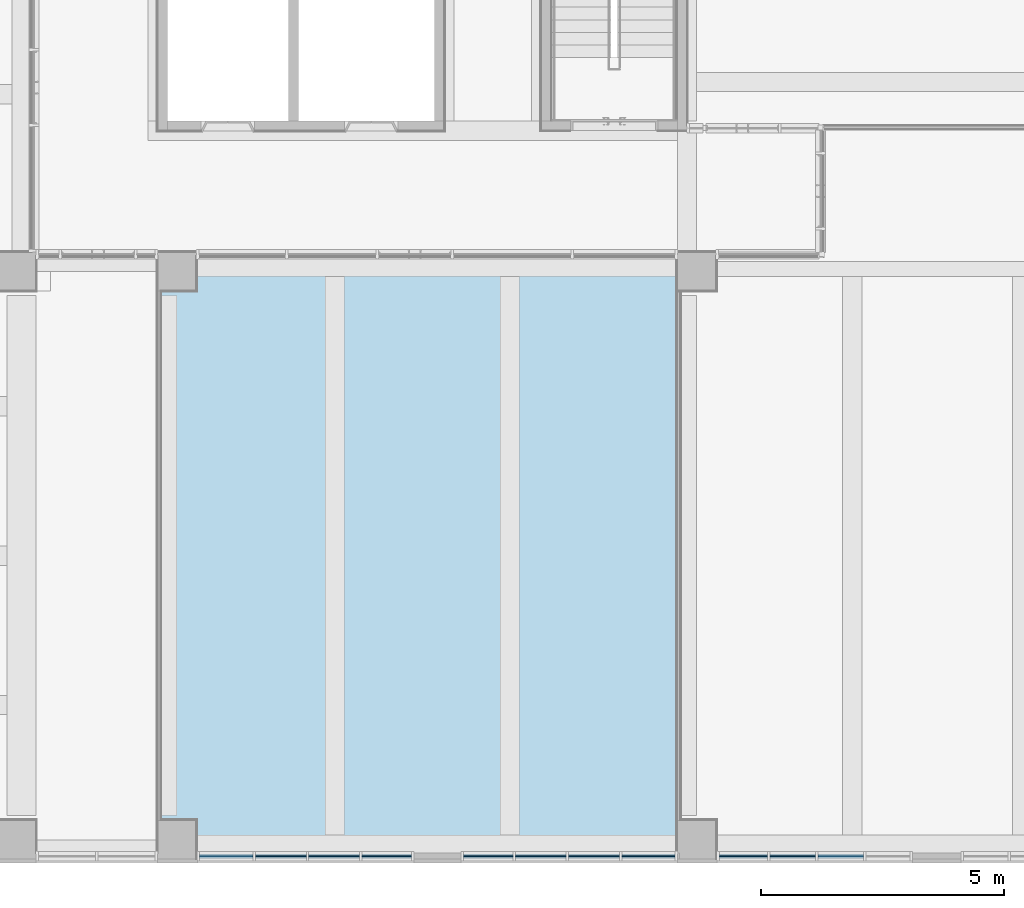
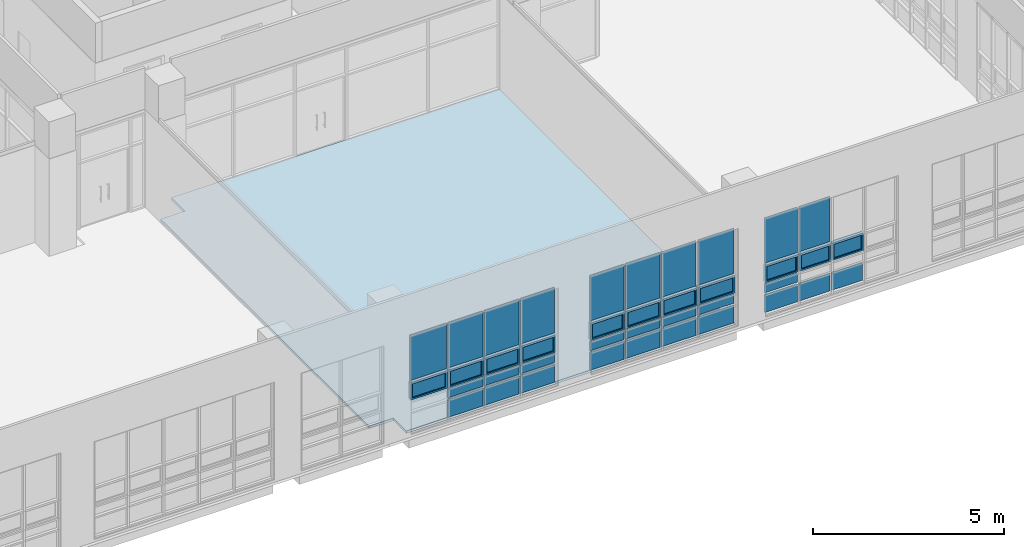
# One storey, part 32 of 74: 39 plates, 1 slab, 3 elements without a shape of their own.
"""IFC2X3 building model written with IfcOpenShell, lengths in millimetres."""

from ifc_helpers import new_model, entity, si_unit, converted_unit, derived_unit, direction, frame, origin, origin_2d_with_axis, place, context, subcontext, project, spatial, polyline, rectangle, outline, extrude, source, transform, mapped, material, material_list, layer, layer_set, layer_usage, type_object, type_shapes, element, aggregate, save


model = new_model("IFC2X3")

# Units and contexts
model_context = context("Model", 3, precision=0.01, world=origin(), true_north=direction((6.123031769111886e-17, 1.0)))
body_context = subcontext(model_context, "Body", "Model", "MODEL_VIEW")
ifc_project = project(units=[si_unit("LENGTHUNIT", "METRE", prefix="MILLI"), si_unit("AREAUNIT", "SQUARE_METRE"), si_unit("VOLUMEUNIT", "CUBIC_METRE"), converted_unit("PLANEANGLEUNIT", "DEGREE", entity("IfcRatioMeasure", 0.017453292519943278), si_unit("PLANEANGLEUNIT", "RADIAN"), dimensions=[0, 0, 0, 0, 0, 0, 0]), si_unit("MASSUNIT", "GRAM", prefix="KILO"), derived_unit("MASSDENSITYUNIT", [(si_unit("MASSUNIT", "GRAM", prefix="KILO"), 1), (si_unit("LENGTHUNIT", "METRE"), -3)]), derived_unit("MOMENTOFINERTIAUNIT", [(si_unit("LENGTHUNIT", "METRE"), 4)]), si_unit("TIMEUNIT", "SECOND"), si_unit("FREQUENCYUNIT", "HERTZ"), si_unit("THERMODYNAMICTEMPERATUREUNIT", "DEGREE_CELSIUS"), derived_unit("THERMALTRANSMITTANCEUNIT", [(si_unit("MASSUNIT", "GRAM", prefix="KILO"), 1), (si_unit("THERMODYNAMICTEMPERATUREUNIT", "KELVIN"), -1), (si_unit("TIMEUNIT", "SECOND"), -3)]), derived_unit("VOLUMETRICFLOWRATEUNIT", [(si_unit("LENGTHUNIT", "METRE"), 3), (si_unit("TIMEUNIT", "SECOND"), -1)]), derived_unit("MASSFLOWRATEUNIT", [(si_unit("MASSUNIT", "GRAM", prefix="KILO"), 1), (si_unit("TIMEUNIT", "SECOND"), -1)]), derived_unit("ROTATIONALFREQUENCYUNIT", [(si_unit("TIMEUNIT", "SECOND"), -1)]), si_unit("ELECTRICCURRENTUNIT", "AMPERE"), si_unit("ELECTRICVOLTAGEUNIT", "VOLT"), si_unit("POWERUNIT", "WATT"), si_unit("FORCEUNIT", "NEWTON", prefix="KILO"), si_unit("ILLUMINANCEUNIT", "LUX"), si_unit("LUMINOUSFLUXUNIT", "LUMEN"), si_unit("LUMINOUSINTENSITYUNIT", "CANDELA"), derived_unit("USERDEFINED", [(si_unit("MASSUNIT", "GRAM", prefix="KILO"), -1), (si_unit("LENGTHUNIT", "METRE"), -2), (si_unit("TIMEUNIT", "SECOND"), 3), (si_unit("LUMINOUSFLUXUNIT", "LUMEN"), 1)]), derived_unit("SOUNDPOWERUNIT", [(si_unit("MASSUNIT", "GRAM", prefix="KILO"), 1), (si_unit("LENGTHUNIT", "METRE"), 2), (si_unit("TIMEUNIT", "SECOND"), -3)]), derived_unit("SOUNDPRESSUREUNIT", [(si_unit("MASSUNIT", "GRAM", prefix="KILO"), 1), (si_unit("LENGTHUNIT", "METRE"), -1), (si_unit("TIMEUNIT", "SECOND"), -2)]), derived_unit("LINEARVELOCITYUNIT", [(si_unit("LENGTHUNIT", "METRE"), 1), (si_unit("TIMEUNIT", "SECOND"), -1)]), si_unit("PRESSUREUNIT", "PASCAL"), derived_unit("USERDEFINED", [(si_unit("LENGTHUNIT", "METRE"), -2), (si_unit("MASSUNIT", "GRAM", prefix="KILO"), 1), (si_unit("TIMEUNIT", "SECOND"), -2)]), derived_unit("LINEARFORCEUNIT", [(si_unit("MASSUNIT", "GRAM", prefix="KILO"), 1), (si_unit("LENGTHUNIT", "METRE"), 1), (si_unit("TIMEUNIT", "SECOND"), -2), (si_unit("LENGTHUNIT", "METRE"), -1)]), derived_unit("PLANARFORCEUNIT", [(si_unit("MASSUNIT", "GRAM", prefix="KILO"), 1), (si_unit("LENGTHUNIT", "METRE"), 1), (si_unit("TIMEUNIT", "SECOND"), -2), (si_unit("LENGTHUNIT", "METRE"), -2)])], contexts=[model_context])

# Site, building, storey
site_placement = place(None, frame((-14167.972527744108, -657.2125860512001, 0.0)))
site = spatial("IfcSite", under=ifc_project, at=site_placement, Name="Default", CompositionType="ELEMENT")
building_placement = place(site_placement, origin())
building = spatial("IfcBuilding", under=site, at=building_placement, Name="Sample Building", CompositionType="ELEMENT")
storey_placement = place(building_placement, frame((0.0, 0.0, 4800.0)))
storey = spatial("IfcBuildingStorey", under=building, at=storey_placement, Name="지상 2층", CompositionType="ELEMENT", Elevation=4800.000000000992)

# Curtain wall, plates
curtain_wall_type = type_object("IfcCurtainWallType", Name="커튼월:CW112-스테인리스 스틸 커튼월", PredefinedType="NOTDEFINED")
curtain_wall_1_placement = place(storey_placement, frame((0.0, 0.0, -4800.0)))
curtain_wall_1 = element("IfcCurtainWall", 1, at=curtain_wall_1_placement, inside=storey, type_object=curtain_wall_type, Name="커튼월:CW112-스테인리스 스틸 커튼월", ObjectType="커튼월:CW112-스테인리스 스틸 커튼월")
ifc_material_1 = material(Name="KBIMS-로이유리(코팅)")
plate_type_1 = type_object("IfcPlateType", Name="CW300-THK24.Low-e coating glass:CW300-THK24.Low-e coating glass", PredefinedType="CURTAIN_PANEL", material=ifc_material_1)
shared_shape_1 = source(origin(), body_context, "Body", "SweptSolid", [
    extrude(rectangle(XDim=1043.750000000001, YDim=24.000000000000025, at=origin_2d_with_axis()), frame((0.0, 0.0, 0.0), z_axis=(0.0, 0.0, 1.0), x_axis=(-1.0, 0.0, 0.0)), (0.0, 0.0, 1.0), 575.0000000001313),
])
type_shapes(plate_type_1, [shared_shape_1])
plate_1_placement = place(curtain_wall_1_placement, frame((32608.863623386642, 619.712295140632, 4930.0)))
plate_1 = element("IfcPlate", 2, at=plate_1_placement, type_object=plate_type_1, material=ifc_material_1, Name="CW300-THK24.Low-e coating glass:CW300-THK24.Low-e coating glass", ObjectType="CW300-THK24.Low-e coating glass:CW300-THK24.Low-e coating glass", context=body_context, shape_type="MappedRepresentation", body=[
    mapped(shared_shape_1, transform((0.0, 0.0, 0.0), scale=1.0)),
])
plate_2_placement = place(curtain_wall_1_placement, frame((33702.61362338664, 619.7122951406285, 4930.0)))
plate_2 = element("IfcPlate", 3, at=plate_2_placement, type_object=plate_type_1, material=ifc_material_1, Name="CW300-THK24.Low-e coating glass:CW300-THK24.Low-e coating glass", ObjectType="CW300-THK24.Low-e coating glass:CW300-THK24.Low-e coating glass", context=body_context, shape_type="MappedRepresentation", body=[
    mapped(shared_shape_1, transform((0.0, 0.0, 0.0), scale=1.0)),
])

curtain_wall_2_placement = place(storey_placement, frame((0.0, 0.0, -4800.0)))
curtain_wall_2 = element("IfcCurtainWall", 4, at=curtain_wall_2_placement, inside=storey, type_object=curtain_wall_type, Name="커튼월:CW112-스테인리스 스틸 커튼월", ObjectType="커튼월:CW112-스테인리스 스틸 커튼월")
plate_3_placement = place(curtain_wall_2_placement, frame((37958.77251886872, 619.7122951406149, 4930.0)))
plate_3 = element("IfcPlate", 5, at=plate_3_placement, type_object=plate_type_1, material=ifc_material_1, Name="CW300-THK24.Low-e coating glass:CW300-THK24.Low-e coating glass", ObjectType="CW300-THK24.Low-e coating glass:CW300-THK24.Low-e coating glass", context=body_context, shape_type="MappedRepresentation", body=[
    mapped(shared_shape_1, transform((0.0, 0.0, 0.0), scale=1.0)),
])
plate_4_placement = place(curtain_wall_2_placement, frame((39052.52251886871, 619.7122951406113, 4930.0)))
plate_4 = element("IfcPlate", 6, at=plate_4_placement, type_object=plate_type_1, material=ifc_material_1, Name="CW300-THK24.Low-e coating glass:CW300-THK24.Low-e coating glass", ObjectType="CW300-THK24.Low-e coating glass:CW300-THK24.Low-e coating glass", context=body_context, shape_type="MappedRepresentation", body=[
    mapped(shared_shape_1, transform((0.0, 0.0, 0.0), scale=1.0)),
])

# Plate
plate_type_2 = type_object("IfcPlateType", Name="CW300-THK24.Low-e coating glass:CW300-THK24.Low-e coating glass", PredefinedType="CURTAIN_PANEL", material=ifc_material_1)
shared_shape_2 = source(origin(), body_context, "Body", "SweptSolid", [
    extrude(rectangle(XDim=1018.749999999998, YDim=24.000000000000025, at=origin_2d_with_axis()), frame((0.0, 0.0, 0.0), z_axis=(0.0, 0.0, 1.0), x_axis=(-1.0, 0.0, 0.0)), (0.0, 0.0, 1.0), 575.0000000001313),
])
type_shapes(plate_type_2, [shared_shape_2])
plate_5_placement = place(curtain_wall_1_placement, frame((34783.86362338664, 619.712295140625, 4930.0)))
plate_5 = element("IfcPlate", 7, at=plate_5_placement, type_object=plate_type_2, material=ifc_material_1, Name="CW300-THK24.Low-e coating glass:CW300-THK24.Low-e coating glass", ObjectType="CW300-THK24.Low-e coating glass:CW300-THK24.Low-e coating glass", context=body_context, shape_type="MappedRepresentation", body=[
    mapped(shared_shape_2, transform((0.0, 0.0, 0.0), scale=1.0)),
])

plate_6_placement = place(curtain_wall_2_placement, frame((36877.522518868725, 619.7122951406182, 4930.0)))
plate_6 = element("IfcPlate", 8, at=plate_6_placement, type_object=plate_type_2, material=ifc_material_1, Name="CW300-THK24.Low-e coating glass:CW300-THK24.Low-e coating glass", ObjectType="CW300-THK24.Low-e coating glass:CW300-THK24.Low-e coating glass", context=body_context, shape_type="MappedRepresentation", body=[
    mapped(shared_shape_2, transform((0.0, 0.0, 0.0), scale=1.0)),
])

plate_type_3 = type_object("IfcPlateType", Name="CW300-THK24.Low-e coating glass:CW300-THK24.Low-e coating glass", PredefinedType="CURTAIN_PANEL", material=ifc_material_1)
shared_shape_3 = source(origin(), body_context, "Body", "SweptSolid", [
    extrude(rectangle(XDim=1043.750000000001, YDim=24.000000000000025, at=origin_2d_with_axis()), frame((0.0, 0.0, 0.0), z_axis=(0.0, 0.0, 1.0), x_axis=(-1.0, 0.0, 0.0)), (0.0, 0.0, 1.0), 299.9999999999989),
])
type_shapes(plate_type_3, [shared_shape_3])
plate_7_placement = place(curtain_wall_1_placement, frame((32608.863623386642, 619.712295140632, 5555.0)))
plate_7 = element("IfcPlate", 9, at=plate_7_placement, type_object=plate_type_3, material=ifc_material_1, Name="CW300-THK24.Low-e coating glass:CW300-THK24.Low-e coating glass", ObjectType="CW300-THK24.Low-e coating glass:CW300-THK24.Low-e coating glass", context=body_context, shape_type="MappedRepresentation", body=[
    mapped(shared_shape_3, transform((0.0, 0.0, 0.0), scale=1.0)),
])

plate_8_placement = place(curtain_wall_1_placement, frame((33702.61362338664, 619.7122951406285, 5555.0)))
plate_8 = element("IfcPlate", 10, at=plate_8_placement, type_object=plate_type_3, material=ifc_material_1, Name="CW300-THK24.Low-e coating glass:CW300-THK24.Low-e coating glass", ObjectType="CW300-THK24.Low-e coating glass:CW300-THK24.Low-e coating glass", context=body_context, shape_type="MappedRepresentation", body=[
    mapped(shared_shape_3, transform((0.0, 0.0, 0.0), scale=1.0)),
])

plate_9_placement = place(curtain_wall_2_placement, frame((37958.77251886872, 619.7122951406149, 5555.0)))
plate_9 = element("IfcPlate", 11, at=plate_9_placement, type_object=plate_type_3, material=ifc_material_1, Name="CW300-THK24.Low-e coating glass:CW300-THK24.Low-e coating glass", ObjectType="CW300-THK24.Low-e coating glass:CW300-THK24.Low-e coating glass", context=body_context, shape_type="MappedRepresentation", body=[
    mapped(shared_shape_3, transform((0.0, 0.0, 0.0), scale=1.0)),
])

plate_10_placement = place(curtain_wall_2_placement, frame((39052.52251886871, 619.7122951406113, 5555.0)))
plate_10 = element("IfcPlate", 12, at=plate_10_placement, type_object=plate_type_3, material=ifc_material_1, Name="CW300-THK24.Low-e coating glass:CW300-THK24.Low-e coating glass", ObjectType="CW300-THK24.Low-e coating glass:CW300-THK24.Low-e coating glass", context=body_context, shape_type="MappedRepresentation", body=[
    mapped(shared_shape_3, transform((0.0, 0.0, 0.0), scale=1.0)),
])

plate_type_4 = type_object("IfcPlateType", Name="CW300-THK24.Low-e coating glass:CW300-THK24.Low-e coating glass", PredefinedType="CURTAIN_PANEL", material=ifc_material_1)
shared_shape_4 = source(origin(), body_context, "Body", "SweptSolid", [
    extrude(rectangle(XDim=1018.749999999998, YDim=24.000000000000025, at=origin_2d_with_axis()), frame((0.0, 0.0, 0.0), z_axis=(0.0, 0.0, 1.0), x_axis=(-1.0, 0.0, 0.0)), (0.0, 0.0, 1.0), 299.9999999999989),
])
type_shapes(plate_type_4, [shared_shape_4])
plate_11_placement = place(curtain_wall_1_placement, frame((34783.86362338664, 619.712295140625, 5555.0)))
plate_11 = element("IfcPlate", 13, at=plate_11_placement, type_object=plate_type_4, material=ifc_material_1, Name="CW300-THK24.Low-e coating glass:CW300-THK24.Low-e coating glass", ObjectType="CW300-THK24.Low-e coating glass:CW300-THK24.Low-e coating glass", context=body_context, shape_type="MappedRepresentation", body=[
    mapped(shared_shape_4, transform((0.0, 0.0, 0.0), scale=1.0)),
])

plate_12_placement = place(curtain_wall_2_placement, frame((36877.522518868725, 619.7122951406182, 5555.0)))
plate_12 = element("IfcPlate", 14, at=plate_12_placement, type_object=plate_type_4, material=ifc_material_1, Name="CW300-THK24.Low-e coating glass:CW300-THK24.Low-e coating glass", ObjectType="CW300-THK24.Low-e coating glass:CW300-THK24.Low-e coating glass", context=body_context, shape_type="MappedRepresentation", body=[
    mapped(shared_shape_4, transform((0.0, 0.0, 0.0), scale=1.0)),
])

ifc_material_2 = material(Name="KBIMS-유리")
ifc_material_3 = material(Name="KBIMS-알루미늄")
ifc_material_list_1 = material_list([ifc_material_2, ifc_material_3])
ifc_material_list_2 = material_list([ifc_material_2, ifc_material_3])
plate_type_5 = type_object("IfcPlateType", Name="CW410-프로젝트 창:CW410-프로젝트 창 (하부개폐)", PredefinedType="CURTAIN_PANEL", material=ifc_material_list_2)
shared_shape_5 = source(origin(), body_context, "Body", "SweptSolid", [
    extrude(rectangle(XDim=1001.0161596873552, YDim=23.999999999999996, at=origin_2d_with_axis()), frame((0.0, -0.04999999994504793, 50.0), z_axis=(0.0, 0.0, 1.0), x_axis=(-1.0, 0.0, 0.0)), (0.0, 0.0, 1.0), 450.00000000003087),
    extrude(outline(polyline([(-550.508079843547, -275.0), (550.508079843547, -275.0), (550.508079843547, 275.0), (-550.508079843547, 275.0), (-550.508079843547, -275.0)]), holes=[polyline([(-500.5080798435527, -225.0), (-500.5080798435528, 225.0), (500.5080798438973, 225.0), (500.5080798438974, -225.0), (-500.5080798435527, -225.0)])]), frame((0.0, -50.04999999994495, 275.0), z_axis=(0.0, 1.0, 0.0), x_axis=(1.0, 0.0, 0.0)), (0.0, 0.0, 1.0), 99.99999999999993),
])
type_shapes(plate_type_5, [shared_shape_5])
plate_13_placement = place(curtain_wall_1_placement, frame((31486.480543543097, 619.7122951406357, 5905.0)))
plate_13 = element("IfcPlate", 15, at=plate_13_placement, type_object=plate_type_5, material=ifc_material_list_1, Name="CW410-프로젝트 창:CW410-프로젝트 창 (하부개폐)", ObjectType="CW410-프로젝트 창:CW410-프로젝트 창 (하부개폐)", context=body_context, shape_type="MappedRepresentation", body=[
    mapped(shared_shape_5, transform((0.0, 0.0, 0.0), scale=1.0)),
])

ifc_material_list_3 = material_list([ifc_material_2, ifc_material_3])
ifc_material_list_4 = material_list([ifc_material_2, ifc_material_3])
plate_type_6 = type_object("IfcPlateType", Name="CW410-프로젝트 창:CW410-프로젝트 창 (하부개폐)", PredefinedType="CURTAIN_PANEL", material=ifc_material_list_4)
shared_shape_6 = source(origin(), body_context, "Body", "SweptSolid", [
    extrude(rectangle(XDim=943.7500000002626, YDim=23.999999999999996, at=origin_2d_with_axis()), frame((0.0, -0.04999999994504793, 50.0), z_axis=(0.0, 0.0, 1.0), x_axis=(-1.0, 0.0, 0.0)), (0.0, 0.0, 1.0), 450.00000000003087),
    extrude(outline(polyline([(-521.8750000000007, -275.0), (521.8750000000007, -275.0), (521.8750000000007, 275.0), (-521.8750000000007, 275.0), (-521.8750000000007, -275.0)]), holes=[polyline([(-471.8750000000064, -225.0), (-471.8750000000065, 225.0), (471.875000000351, 225.0), (471.8750000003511, -225.0), (-471.8750000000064, -225.0)])]), frame((0.0, -50.04999999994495, 275.0), z_axis=(0.0, 1.0, 0.0), x_axis=(1.0, 0.0, 0.0)), (0.0, 0.0, 1.0), 99.99999999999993),
])
type_shapes(plate_type_6, [shared_shape_6])
plate_14_placement = place(curtain_wall_1_placement, frame((32608.863623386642, 619.712295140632, 5905.0)))
plate_14 = element("IfcPlate", 16, at=plate_14_placement, type_object=plate_type_6, material=ifc_material_list_3, Name="CW410-프로젝트 창:CW410-프로젝트 창 (하부개폐)", ObjectType="CW410-프로젝트 창:CW410-프로젝트 창 (하부개폐)", context=body_context, shape_type="MappedRepresentation", body=[
    mapped(shared_shape_6, transform((0.0, 0.0, 0.0), scale=1.0)),
])

ifc_material_list_5 = material_list([ifc_material_2, ifc_material_3])
plate_15_placement = place(curtain_wall_1_placement, frame((33702.61362338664, 619.7122951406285, 5905.0)))
plate_15 = element("IfcPlate", 17, at=plate_15_placement, type_object=plate_type_6, material=ifc_material_list_5, Name="CW410-프로젝트 창:CW410-프로젝트 창 (하부개폐)", ObjectType="CW410-프로젝트 창:CW410-프로젝트 창 (하부개폐)", context=body_context, shape_type="MappedRepresentation", body=[
    mapped(shared_shape_6, transform((0.0, 0.0, 0.0), scale=1.0)),
])

ifc_material_list_6 = material_list([ifc_material_2, ifc_material_3])
plate_16_placement = place(curtain_wall_2_placement, frame((37958.77251886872, 619.7122951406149, 5905.0)))
plate_16 = element("IfcPlate", 18, at=plate_16_placement, type_object=plate_type_6, material=ifc_material_list_6, Name="CW410-프로젝트 창:CW410-프로젝트 창 (하부개폐)", ObjectType="CW410-프로젝트 창:CW410-프로젝트 창 (하부개폐)", context=body_context, shape_type="MappedRepresentation", body=[
    mapped(shared_shape_6, transform((0.0, 0.0, 0.0), scale=1.0)),
])

ifc_material_list_7 = material_list([ifc_material_2, ifc_material_3])
plate_17_placement = place(curtain_wall_2_placement, frame((39052.52251886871, 619.7122951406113, 5905.0)))
plate_17 = element("IfcPlate", 19, at=plate_17_placement, type_object=plate_type_6, material=ifc_material_list_7, Name="CW410-프로젝트 창:CW410-프로젝트 창 (하부개폐)", ObjectType="CW410-프로젝트 창:CW410-프로젝트 창 (하부개폐)", context=body_context, shape_type="MappedRepresentation", body=[
    mapped(shared_shape_6, transform((0.0, 0.0, 0.0), scale=1.0)),
])

ifc_material_list_8 = material_list([ifc_material_2, ifc_material_3])
ifc_material_list_9 = material_list([ifc_material_2, ifc_material_3])
plate_type_7 = type_object("IfcPlateType", Name="CW410-프로젝트 창:CW410-프로젝트 창 (하부개폐)", PredefinedType="CURTAIN_PANEL", material=ifc_material_list_9)
shared_shape_7 = source(origin(), body_context, "Body", "SweptSolid", [
    extrude(rectangle(XDim=918.7500000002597, YDim=23.999999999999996, at=origin_2d_with_axis()), frame((0.0, -0.04999999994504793, 50.0), z_axis=(0.0, 0.0, 1.0), x_axis=(-1.0, 0.0, 0.0)), (0.0, 0.0, 1.0), 450.00000000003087),
    extrude(outline(polyline([(-509.3749999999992, -275.0), (509.3749999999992, -275.0), (509.3749999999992, 275.0), (-509.3749999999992, 275.0), (-509.3749999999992, -275.0)]), holes=[polyline([(-459.37500000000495, -225.0), (-459.375000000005, 225.0), (459.3750000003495, 225.0), (459.37500000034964, -225.0), (-459.37500000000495, -225.0)])]), frame((0.0, -50.04999999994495, 275.0), z_axis=(0.0, 1.0, 0.0), x_axis=(1.0, 0.0, 0.0)), (0.0, 0.0, 1.0), 99.99999999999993),
])
type_shapes(plate_type_7, [shared_shape_7])
plate_18_placement = place(curtain_wall_1_placement, frame((34783.86362338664, 619.712295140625, 5905.0)))
plate_18 = element("IfcPlate", 20, at=plate_18_placement, type_object=plate_type_7, material=ifc_material_list_8, Name="CW410-프로젝트 창:CW410-프로젝트 창 (하부개폐)", ObjectType="CW410-프로젝트 창:CW410-프로젝트 창 (하부개폐)", context=body_context, shape_type="MappedRepresentation", body=[
    mapped(shared_shape_7, transform((0.0, 0.0, 0.0), scale=1.0)),
])

ifc_material_list_10 = material_list([ifc_material_2, ifc_material_3])
plate_19_placement = place(curtain_wall_2_placement, frame((36877.522518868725, 619.7122951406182, 5905.0)))
plate_19 = element("IfcPlate", 21, at=plate_19_placement, type_object=plate_type_7, material=ifc_material_list_10, Name="CW410-프로젝트 창:CW410-프로젝트 창 (하부개폐)", ObjectType="CW410-프로젝트 창:CW410-프로젝트 창 (하부개폐)", context=body_context, shape_type="MappedRepresentation", body=[
    mapped(shared_shape_7, transform((0.0, 0.0, 0.0), scale=1.0)),
])

plate_type_8 = type_object("IfcPlateType", Name="CW300-THK24.Low-e coating glass:CW300-THK24.Low-e coating glass", PredefinedType="CURTAIN_PANEL", material=ifc_material_1)
shared_shape_8 = source(origin(), body_context, "Body", "SweptSolid", [
    extrude(rectangle(XDim=1101.0161596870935, YDim=24.000000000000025, at=origin_2d_with_axis()), frame((0.0, 0.0, 0.0), z_axis=(0.0, 0.0, 1.0), x_axis=(-1.0, 0.0, 0.0)), (0.0, 0.0, 1.0), 1445.0000000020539),
])
type_shapes(plate_type_8, [shared_shape_8])
plate_20_placement = place(curtain_wall_1_placement, frame((31486.480543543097, 619.7122951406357, 6505.0)))
plate_20 = element("IfcPlate", 22, at=plate_20_placement, type_object=plate_type_8, material=ifc_material_1, Name="CW300-THK24.Low-e coating glass:CW300-THK24.Low-e coating glass", ObjectType="CW300-THK24.Low-e coating glass:CW300-THK24.Low-e coating glass", context=body_context, shape_type="MappedRepresentation", body=[
    mapped(shared_shape_8, transform((0.0, 0.0, 0.0), scale=1.0)),
])

plate_type_9 = type_object("IfcPlateType", Name="CW300-THK24.Low-e coating glass:CW300-THK24.Low-e coating glass", PredefinedType="CURTAIN_PANEL", material=ifc_material_1)
shared_shape_9 = source(origin(), body_context, "Body", "SweptSolid", [
    extrude(rectangle(XDim=1043.7500000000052, YDim=24.000000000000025, at=origin_2d_with_axis()), frame((0.0, 0.0, 0.0), z_axis=(0.0, 0.0, 1.0), x_axis=(-1.0, 0.0, 0.0)), (0.0, 0.0, 1.0), 1445.0000000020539),
])
type_shapes(plate_type_9, [shared_shape_9])
plate_21_placement = place(curtain_wall_1_placement, frame((32608.863623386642, 619.712295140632, 6505.0)))
plate_21 = element("IfcPlate", 23, at=plate_21_placement, type_object=plate_type_9, material=ifc_material_1, Name="CW300-THK24.Low-e coating glass:CW300-THK24.Low-e coating glass", ObjectType="CW300-THK24.Low-e coating glass:CW300-THK24.Low-e coating glass", context=body_context, shape_type="MappedRepresentation", body=[
    mapped(shared_shape_9, transform((0.0, 0.0, 0.0), scale=1.0)),
])

plate_22_placement = place(curtain_wall_1_placement, frame((33702.61362338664, 619.7122951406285, 6505.0)))
plate_22 = element("IfcPlate", 24, at=plate_22_placement, type_object=plate_type_9, material=ifc_material_1, Name="CW300-THK24.Low-e coating glass:CW300-THK24.Low-e coating glass", ObjectType="CW300-THK24.Low-e coating glass:CW300-THK24.Low-e coating glass", context=body_context, shape_type="MappedRepresentation", body=[
    mapped(shared_shape_9, transform((0.0, 0.0, 0.0), scale=1.0)),
])

plate_23_placement = place(curtain_wall_2_placement, frame((37958.77251886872, 619.7122951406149, 6505.0)))
plate_23 = element("IfcPlate", 25, at=plate_23_placement, type_object=plate_type_9, material=ifc_material_1, Name="CW300-THK24.Low-e coating glass:CW300-THK24.Low-e coating glass", ObjectType="CW300-THK24.Low-e coating glass:CW300-THK24.Low-e coating glass", context=body_context, shape_type="MappedRepresentation", body=[
    mapped(shared_shape_9, transform((0.0, 0.0, 0.0), scale=1.0)),
])

plate_24_placement = place(curtain_wall_2_placement, frame((39052.52251886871, 619.7122951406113, 6505.0)))
plate_24 = element("IfcPlate", 26, at=plate_24_placement, type_object=plate_type_9, material=ifc_material_1, Name="CW300-THK24.Low-e coating glass:CW300-THK24.Low-e coating glass", ObjectType="CW300-THK24.Low-e coating glass:CW300-THK24.Low-e coating glass", context=body_context, shape_type="MappedRepresentation", body=[
    mapped(shared_shape_9, transform((0.0, 0.0, 0.0), scale=1.0)),
])

plate_type_10 = type_object("IfcPlateType", Name="CW300-THK24.Low-e coating glass:CW300-THK24.Low-e coating glass", PredefinedType="CURTAIN_PANEL", material=ifc_material_1)
shared_shape_10 = source(origin(), body_context, "Body", "SweptSolid", [
    extrude(rectangle(XDim=1018.749999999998, YDim=24.000000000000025, at=origin_2d_with_axis()), frame((0.0, 0.0, 0.0), z_axis=(0.0, 0.0, 1.0), x_axis=(-1.0, 0.0, 0.0)), (0.0, 0.0, 1.0), 1445.0000000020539),
])
type_shapes(plate_type_10, [shared_shape_10])
plate_25_placement = place(curtain_wall_1_placement, frame((34783.86362338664, 619.712295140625, 6505.0)))
plate_25 = element("IfcPlate", 27, at=plate_25_placement, type_object=plate_type_10, material=ifc_material_1, Name="CW300-THK24.Low-e coating glass:CW300-THK24.Low-e coating glass", ObjectType="CW300-THK24.Low-e coating glass:CW300-THK24.Low-e coating glass", context=body_context, shape_type="MappedRepresentation", body=[
    mapped(shared_shape_10, transform((0.0, 0.0, 0.0), scale=1.0)),
])

aggregate(curtain_wall_1, [plate_1, plate_2, plate_5, plate_7, plate_8, plate_11, plate_13, plate_14, plate_15, plate_18, plate_20, plate_21, plate_22, plate_25])

plate_26_placement = place(curtain_wall_2_placement, frame((36877.522518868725, 619.7122951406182, 6505.0)))
plate_26 = element("IfcPlate", 28, at=plate_26_placement, type_object=plate_type_10, material=ifc_material_1, Name="CW300-THK24.Low-e coating glass:CW300-THK24.Low-e coating glass", ObjectType="CW300-THK24.Low-e coating glass:CW300-THK24.Low-e coating glass", context=body_context, shape_type="MappedRepresentation", body=[
    mapped(shared_shape_10, transform((0.0, 0.0, 0.0), scale=1.0)),
])

plate_type_11 = type_object("IfcPlateType", Name="CW300-THK24.Low-e coating glass:CW300-THK24.Low-e coating glass", PredefinedType="CURTAIN_PANEL", material=ifc_material_1)
shared_shape_11 = source(origin(), body_context, "Body", "SweptSolid", [
    extrude(rectangle(XDim=1093.5749722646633, YDim=24.000000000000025, at=origin_2d_with_axis()), frame((0.0, 0.0, 0.0), z_axis=(0.0, 0.0, 1.0), x_axis=(-1.0, 0.0, 0.0)), (0.0, 0.0, 1.0), 575.0000000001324),
])
type_shapes(plate_type_11, [shared_shape_11])
plate_27_placement = place(curtain_wall_2_placement, frame((40171.18500500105, 619.7122951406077, 4930.0)))
plate_27 = element("IfcPlate", 29, at=plate_27_placement, type_object=plate_type_11, material=ifc_material_1, Name="CW300-THK24.Low-e coating glass:CW300-THK24.Low-e coating glass", ObjectType="CW300-THK24.Low-e coating glass:CW300-THK24.Low-e coating glass", context=body_context, shape_type="MappedRepresentation", body=[
    mapped(shared_shape_11, transform((0.0, 0.0, 0.0), scale=1.0)),
])

plate_type_12 = type_object("IfcPlateType", Name="CW300-THK24.Low-e coating glass:CW300-THK24.Low-e coating glass", PredefinedType="CURTAIN_PANEL", material=ifc_material_1)
shared_shape_12 = source(origin(), body_context, "Body", "SweptSolid", [
    extrude(rectangle(XDim=1093.5749722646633, YDim=24.000000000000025, at=origin_2d_with_axis()), frame((0.0, 0.0, 0.0), z_axis=(0.0, 0.0, 1.0), x_axis=(-1.0, 0.0, 0.0)), (0.0, 0.0, 1.0), 299.9999999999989),
])
type_shapes(plate_type_12, [shared_shape_12])
plate_28_placement = place(curtain_wall_2_placement, frame((40171.18500500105, 619.7122951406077, 5555.0)))
plate_28 = element("IfcPlate", 30, at=plate_28_placement, type_object=plate_type_12, material=ifc_material_1, Name="CW300-THK24.Low-e coating glass:CW300-THK24.Low-e coating glass", ObjectType="CW300-THK24.Low-e coating glass:CW300-THK24.Low-e coating glass", context=body_context, shape_type="MappedRepresentation", body=[
    mapped(shared_shape_12, transform((0.0, 0.0, 0.0), scale=1.0)),
])

ifc_material_list_11 = material_list([ifc_material_2, ifc_material_3])
ifc_material_list_12 = material_list([ifc_material_2, ifc_material_3])
plate_type_13 = type_object("IfcPlateType", Name="CW410-프로젝트 창:CW410-프로젝트 창 (하부개폐)", PredefinedType="CURTAIN_PANEL", material=ifc_material_list_12)
shared_shape_13 = source(origin(), body_context, "Body", "SweptSolid", [
    extrude(rectangle(XDim=993.5749722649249, YDim=23.999999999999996, at=origin_2d_with_axis()), frame((0.0, -0.04999999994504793, 50.0), z_axis=(0.0, 0.0, 1.0), x_axis=(-1.0, 0.0, 0.0)), (0.0, 0.0, 1.0), 450.0000000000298),
    extrude(outline(polyline([(-546.7874861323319, -275.0), (546.7874861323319, -275.0), (546.7874861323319, 275.0), (-546.7874861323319, 275.0), (-546.7874861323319, -275.0)]), holes=[polyline([(-496.78748613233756, -225.0), (-496.7874861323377, 225.0), (496.78748613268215, 225.0), (496.78748613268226, -225.0), (-496.78748613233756, -225.0)])]), frame((0.0, -50.04999999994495, 275.0), z_axis=(0.0, 1.0, 0.0), x_axis=(1.0, 0.0, 0.0)), (0.0, 0.0, 1.0), 99.99999999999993),
])
type_shapes(plate_type_13, [shared_shape_13])
plate_29_placement = place(curtain_wall_2_placement, frame((40171.18500500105, 619.7122951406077, 5905.0)))
plate_29 = element("IfcPlate", 31, at=plate_29_placement, type_object=plate_type_13, material=ifc_material_list_11, Name="CW410-프로젝트 창:CW410-프로젝트 창 (하부개폐)", ObjectType="CW410-프로젝트 창:CW410-프로젝트 창 (하부개폐)", context=body_context, shape_type="MappedRepresentation", body=[
    mapped(shared_shape_13, transform((0.0, 0.0, 0.0), scale=1.0)),
])

plate_type_14 = type_object("IfcPlateType", Name="CW300-THK24.Low-e coating glass:CW300-THK24.Low-e coating glass", PredefinedType="CURTAIN_PANEL", material=ifc_material_1)
shared_shape_14 = source(origin(), body_context, "Body", "SweptSolid", [
    extrude(rectangle(XDim=1093.5749722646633, YDim=24.000000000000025, at=origin_2d_with_axis()), frame((0.0, 0.0, 0.0), z_axis=(0.0, 0.0, 1.0), x_axis=(-1.0, 0.0, 0.0)), (0.0, 0.0, 1.0), 1445.0000000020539),
])
type_shapes(plate_type_14, [shared_shape_14])
plate_30_placement = place(curtain_wall_2_placement, frame((40171.18500500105, 619.7122951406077, 6505.0)))
plate_30 = element("IfcPlate", 32, at=plate_30_placement, type_object=plate_type_14, material=ifc_material_1, Name="CW300-THK24.Low-e coating glass:CW300-THK24.Low-e coating glass", ObjectType="CW300-THK24.Low-e coating glass:CW300-THK24.Low-e coating glass", context=body_context, shape_type="MappedRepresentation", body=[
    mapped(shared_shape_14, transform((0.0, 0.0, 0.0), scale=1.0)),
])

aggregate(curtain_wall_2, [plate_6, plate_3, plate_4, plate_27, plate_12, plate_9, plate_10, plate_28, plate_19, plate_16, plate_17, plate_29, plate_26, plate_23, plate_24, plate_30])

# Curtain wall, plates
curtain_wall_3_placement = place(storey_placement, frame((0.0, 0.0, -4800.0)))
curtain_wall_3 = element("IfcCurtainWall", 33, at=curtain_wall_3_placement, inside=storey, type_object=curtain_wall_type, Name="커튼월:CW112-스테인리스 스틸 커튼월", ObjectType="커튼월:CW112-스테인리스 스틸 커튼월")
plate_type_15 = type_object("IfcPlateType", Name="CW300-THK24.Low-e coating glass:CW300-THK24.Low-e coating glass", PredefinedType="CURTAIN_PANEL", material=ifc_material_1)
shared_shape_15 = source(origin(), body_context, "Body", "SweptSolid", [
    extrude(rectangle(XDim=988.5987811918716, YDim=24.000000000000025, at=origin_2d_with_axis()), frame((0.0, 0.0, 0.0), z_axis=(0.0, 0.0, 1.0), x_axis=(-1.0, 0.0, 0.0)), (0.0, 0.0, 1.0), 575.0000000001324),
])
type_shapes(plate_type_15, [shared_shape_15])
plate_31_placement = place(curtain_wall_3_placement, frame((42130.27188172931, 619.7122951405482, 4930.0)))
plate_31 = element("IfcPlate", 34, at=plate_31_placement, type_object=plate_type_15, material=ifc_material_1, Name="CW300-THK24.Low-e coating glass:CW300-THK24.Low-e coating glass", ObjectType="CW300-THK24.Low-e coating glass:CW300-THK24.Low-e coating glass", context=body_context, shape_type="MappedRepresentation", body=[
    mapped(shared_shape_15, transform((0.0, 0.0, 0.0), scale=1.0)),
])
plate_type_16 = type_object("IfcPlateType", Name="CW300-THK24.Low-e coating glass:CW300-THK24.Low-e coating glass", PredefinedType="CURTAIN_PANEL", material=ifc_material_1)
shared_shape_16 = source(origin(), body_context, "Body", "SweptSolid", [
    extrude(rectangle(XDim=937.4999999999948, YDim=24.000000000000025, at=origin_2d_with_axis()), frame((0.0, 0.0, 0.0), z_axis=(0.0, 0.0, 1.0), x_axis=(-1.0, 0.0, 0.0)), (0.0, 0.0, 1.0), 575.0000000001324),
])
type_shapes(plate_type_16, [shared_shape_16])
plate_32_placement = place(curtain_wall_3_placement, frame((43143.32127232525, 619.7122951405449, 4930.0)))
plate_32 = element("IfcPlate", 35, at=plate_32_placement, type_object=plate_type_16, material=ifc_material_1, Name="CW300-THK24.Low-e coating glass:CW300-THK24.Low-e coating glass", ObjectType="CW300-THK24.Low-e coating glass:CW300-THK24.Low-e coating glass", context=body_context, shape_type="MappedRepresentation", body=[
    mapped(shared_shape_16, transform((0.0, 0.0, 0.0), scale=1.0)),
])
plate_33_placement = place(curtain_wall_3_placement, frame((44130.82127232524, 619.7122951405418, 4930.0)))
plate_33 = element("IfcPlate", 36, at=plate_33_placement, type_object=plate_type_16, material=ifc_material_1, Name="CW300-THK24.Low-e coating glass:CW300-THK24.Low-e coating glass", ObjectType="CW300-THK24.Low-e coating glass:CW300-THK24.Low-e coating glass", context=body_context, shape_type="MappedRepresentation", body=[
    mapped(shared_shape_16, transform((0.0, 0.0, 0.0), scale=1.0)),
])
plate_type_17 = type_object("IfcPlateType", Name="CW300-THK24.Low-e coating glass:CW300-THK24.Low-e coating glass", PredefinedType="CURTAIN_PANEL", material=ifc_material_1)
shared_shape_17 = source(origin(), body_context, "Body", "SweptSolid", [
    extrude(rectangle(XDim=988.5987811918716, YDim=24.000000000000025, at=origin_2d_with_axis()), frame((0.0, 0.0, 0.0), z_axis=(0.0, 0.0, 1.0), x_axis=(-1.0, 0.0, 0.0)), (0.0, 0.0, 1.0), 299.99999999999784),
])
type_shapes(plate_type_17, [shared_shape_17])
plate_34_placement = place(curtain_wall_3_placement, frame((42130.27188172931, 619.7122951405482, 5555.0)))
plate_34 = element("IfcPlate", 37, at=plate_34_placement, type_object=plate_type_17, material=ifc_material_1, Name="CW300-THK24.Low-e coating glass:CW300-THK24.Low-e coating glass", ObjectType="CW300-THK24.Low-e coating glass:CW300-THK24.Low-e coating glass", context=body_context, shape_type="MappedRepresentation", body=[
    mapped(shared_shape_17, transform((0.0, 0.0, 0.0), scale=1.0)),
])
ifc_material_list_13 = material_list([ifc_material_2, ifc_material_3])
ifc_material_list_14 = material_list([ifc_material_2, ifc_material_3])
plate_type_18 = type_object("IfcPlateType", Name="CW410-프로젝트 창:CW410-프로젝트 창 (하부개폐)", PredefinedType="CURTAIN_PANEL", material=ifc_material_list_14)
shared_shape_18 = source(origin(), body_context, "Body", "SweptSolid", [
    extrude(rectangle(XDim=888.5987811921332, YDim=23.999999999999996, at=origin_2d_with_axis()), frame((0.0, -0.04999999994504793, 50.0), z_axis=(0.0, 0.0, 1.0), x_axis=(-1.0, 0.0, 0.0)), (0.0, 0.0, 1.0), 450.00000000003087),
    extrude(outline(polyline([(-494.29939059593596, -275.0), (494.29939059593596, -275.0), (494.29939059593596, 275.0), (-494.29939059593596, 275.0), (-494.29939059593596, -275.0)]), holes=[polyline([(-444.2993905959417, -225.0), (-444.29939059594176, 225.0), (444.2993905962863, 225.0), (444.2993905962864, -225.0), (-444.2993905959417, -225.0)])]), frame((0.0, -50.04999999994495, 275.0), z_axis=(0.0, 1.0, 0.0), x_axis=(1.0, 0.0, 0.0)), (0.0, 0.0, 1.0), 99.99999999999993),
])
type_shapes(plate_type_18, [shared_shape_18])
plate_35_placement = place(curtain_wall_3_placement, frame((42130.27188172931, 619.7122951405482, 5905.0)))
plate_35 = element("IfcPlate", 38, at=plate_35_placement, type_object=plate_type_18, material=ifc_material_list_13, Name="CW410-프로젝트 창:CW410-프로젝트 창 (하부개폐)", ObjectType="CW410-프로젝트 창:CW410-프로젝트 창 (하부개폐)", context=body_context, shape_type="MappedRepresentation", body=[
    mapped(shared_shape_18, transform((0.0, 0.0, 0.0), scale=1.0)),
])
ifc_material_list_15 = material_list([ifc_material_2, ifc_material_3])
ifc_material_list_16 = material_list([ifc_material_2, ifc_material_3])
plate_type_19 = type_object("IfcPlateType", Name="CW410-프로젝트 창:CW410-프로젝트 창 (하부개폐)", PredefinedType="CURTAIN_PANEL", material=ifc_material_list_16)
shared_shape_19 = source(origin(), body_context, "Body", "SweptSolid", [
    extrude(rectangle(XDim=837.5000000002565, YDim=23.999999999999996, at=origin_2d_with_axis()), frame((0.0, -0.04999999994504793, 50.0), z_axis=(0.0, 0.0, 1.0), x_axis=(-1.0, 0.0, 0.0)), (0.0, 0.0, 1.0), 450.00000000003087),
    extrude(outline(polyline([(-468.7499999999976, -275.0), (468.7499999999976, -275.0), (468.7499999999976, 275.0), (-468.7499999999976, 275.0), (-468.7499999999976, -275.0)]), holes=[polyline([(-418.75000000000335, -225.0), (-418.7500000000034, 225.0), (418.7500000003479, 225.0), (418.75000000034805, -225.0), (-418.75000000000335, -225.0)])]), frame((0.0, -50.04999999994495, 275.0), z_axis=(0.0, 1.0, 0.0), x_axis=(1.0, 0.0, 0.0)), (0.0, 0.0, 1.0), 99.99999999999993),
])
type_shapes(plate_type_19, [shared_shape_19])
plate_36_placement = place(curtain_wall_3_placement, frame((43143.32127232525, 619.7122951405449, 5905.0)))
plate_36 = element("IfcPlate", 39, at=plate_36_placement, type_object=plate_type_19, material=ifc_material_list_15, Name="CW410-프로젝트 창:CW410-프로젝트 창 (하부개폐)", ObjectType="CW410-프로젝트 창:CW410-프로젝트 창 (하부개폐)", context=body_context, shape_type="MappedRepresentation", body=[
    mapped(shared_shape_19, transform((0.0, 0.0, 0.0), scale=1.0)),
])
ifc_material_list_17 = material_list([ifc_material_2, ifc_material_3])
plate_37_placement = place(curtain_wall_3_placement, frame((44130.82127232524, 619.7122951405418, 5905.0)))
plate_37 = element("IfcPlate", 40, at=plate_37_placement, type_object=plate_type_19, material=ifc_material_list_17, Name="CW410-프로젝트 창:CW410-프로젝트 창 (하부개폐)", ObjectType="CW410-프로젝트 창:CW410-프로젝트 창 (하부개폐)", context=body_context, shape_type="MappedRepresentation", body=[
    mapped(shared_shape_19, transform((0.0, 0.0, 0.0), scale=1.0)),
])
plate_type_20 = type_object("IfcPlateType", Name="CW300-THK24.Low-e coating glass:CW300-THK24.Low-e coating glass", PredefinedType="CURTAIN_PANEL", material=ifc_material_1)
shared_shape_20 = source(origin(), body_context, "Body", "SweptSolid", [
    extrude(rectangle(XDim=988.5987811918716, YDim=24.000000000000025, at=origin_2d_with_axis()), frame((0.0, 0.0, 0.0), z_axis=(0.0, 0.0, 1.0), x_axis=(-1.0, 0.0, 0.0)), (0.0, 0.0, 1.0), 1445.0000000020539),
])
type_shapes(plate_type_20, [shared_shape_20])
plate_38_placement = place(curtain_wall_3_placement, frame((42130.27188172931, 619.7122951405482, 6505.0)))
plate_38 = element("IfcPlate", 41, at=plate_38_placement, type_object=plate_type_20, material=ifc_material_1, Name="CW300-THK24.Low-e coating glass:CW300-THK24.Low-e coating glass", ObjectType="CW300-THK24.Low-e coating glass:CW300-THK24.Low-e coating glass", context=body_context, shape_type="MappedRepresentation", body=[
    mapped(shared_shape_20, transform((0.0, 0.0, 0.0), scale=1.0)),
])
plate_type_21 = type_object("IfcPlateType", Name="CW300-THK24.Low-e coating glass:CW300-THK24.Low-e coating glass", PredefinedType="CURTAIN_PANEL", material=ifc_material_1)
shared_shape_21 = source(origin(), body_context, "Body", "SweptSolid", [
    extrude(rectangle(XDim=937.4999999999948, YDim=24.000000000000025, at=origin_2d_with_axis()), frame((0.0, 0.0, 0.0), z_axis=(0.0, 0.0, 1.0), x_axis=(-1.0, 0.0, 0.0)), (0.0, 0.0, 1.0), 1445.0000000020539),
])
type_shapes(plate_type_21, [shared_shape_21])
plate_39_placement = place(curtain_wall_3_placement, frame((43143.32127232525, 619.7122951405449, 6505.0)))
plate_39 = element("IfcPlate", 42, at=plate_39_placement, type_object=plate_type_21, material=ifc_material_1, Name="CW300-THK24.Low-e coating glass:CW300-THK24.Low-e coating glass", ObjectType="CW300-THK24.Low-e coating glass:CW300-THK24.Low-e coating glass", context=body_context, shape_type="MappedRepresentation", body=[
    mapped(shared_shape_21, transform((0.0, 0.0, 0.0), scale=1.0)),
])
aggregate(curtain_wall_3, [plate_31, plate_32, plate_33, plate_34, plate_35, plate_36, plate_37, plate_38, plate_39])

# Slab
ifc_material_4 = material(Name="SL341-테라조 바닥 (바탕48mm, 마감32mm)")
ifc_layer = layer(ifc_material_4, 80.0)
ifc_layer_set = layer_set([ifc_layer], Name="바닥:A1-14-06B-테라조타일 (80mm)")
ifc_layer_usage = layer_usage(ifc_layer_set, "AXIS3", "POSITIVE", 0.0)
slab_type = type_object("IfcSlabType", Name="바닥:A1-14-06B-테라조타일 (80mm)", PredefinedType="FLOOR", material=ifc_layer_set)
slab_placement = place(storey_placement, origin())
element("IfcSlab", 43, at=slab_placement, inside=storey, type_object=slab_type, material=ifc_layer_usage, Name="바닥:A1-14-06B-테라조타일 (80mm)", ObjectType="바닥:A1-14-06B-테라조타일 (80mm)", PredefinedType="FLOOR", context=body_context, shape_type="SweptSolid", body=[
    extrude(outline(polyline([(-5458.750382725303, -3028.1250068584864), (5441.250039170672, -3028.1250068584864), (5441.250039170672, -2290.625006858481), (6151.25031723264, -2290.6250068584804), (6151.250317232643, 7609.3750205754), (-6133.74997367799, 7609.375020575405), (-6133.749973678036, -2290.625006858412), (-5458.750382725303, -2290.6250068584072), (-5458.750382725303, -3028.1250068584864)])), frame((33158.597470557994, 6815.9622688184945, 80.0), z_axis=(0.0, 0.0, -1.0), x_axis=(0.0, 1.0, 0.0)), (0.0, 0.0, 1.0), 80.00000000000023),
])

save(model, "model.ifc")
